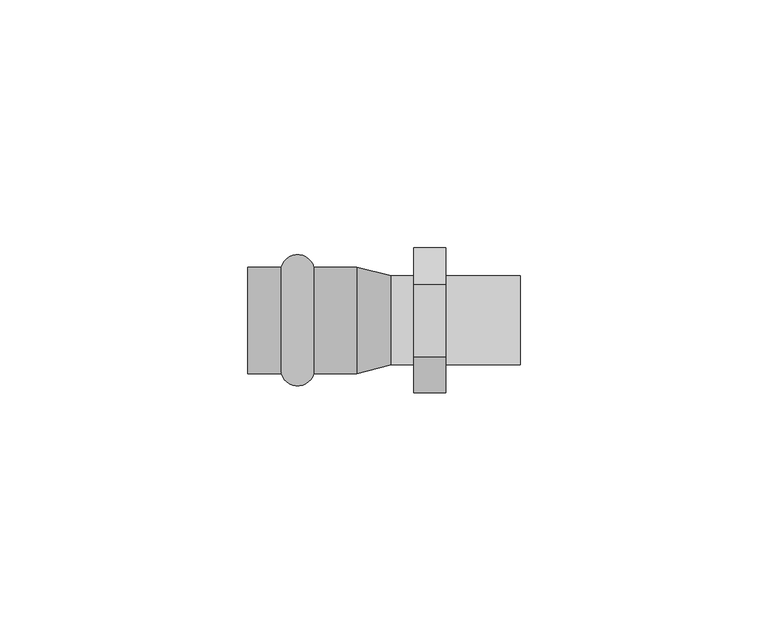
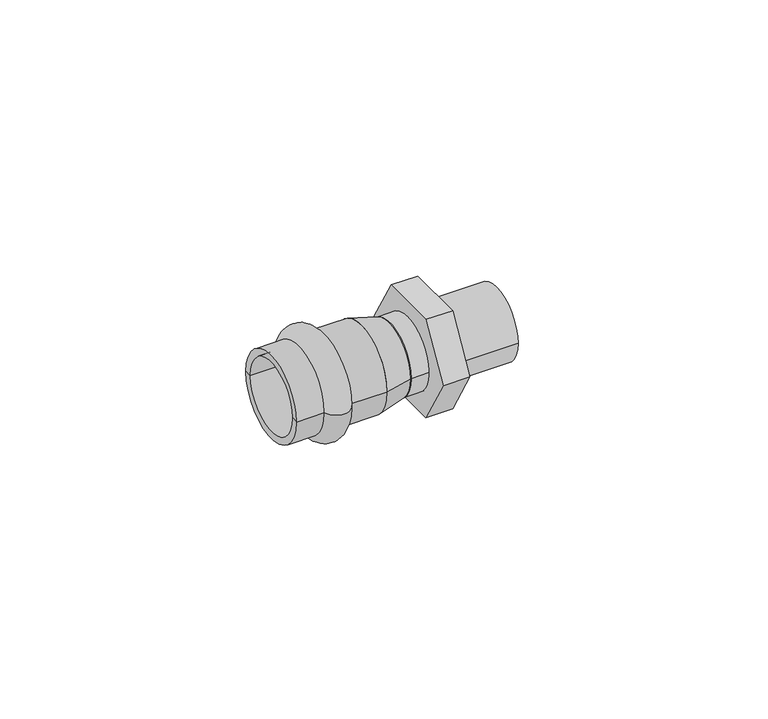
"""IFC4 building model written with IfcOpenShell, lengths in millimetres: pipe fitting geometry, VALTEC_VTi.901.I_Соединитель прямой с переходом на наружную резьбу_Нержавеющая сталь : VTi.901.I."""

from ifc_helpers import new_model, si_unit, point, frame, origin, origin_2d, place, context, project, spatial, polyline, circle_curve, ellipse_curve, trimmed, segment, composite_curve, outline, extrude, source, transform, mapped, element, save
from ifc_brep_helpers import plane_surface, cylinder_surface, revolved_surface, advanced_brep


def pipe_fitting_446bcd69(model_context):
    return source(origin(), model_context, "Body", "SolidModel", [
        advanced_brep(
        [(-29.9787193, -10.75, 0.0), (-29.9787193, 10.75, 0.0), (-23.4212807, 10.75, 0.0), (-23.4212807, -10.75, 0.0), (-36.75, -10.75, 0.0), (-36.75, 10.75, 0.0), (-36.75, -9.0, 0.0), (-36.75, 9.0, 0.0), (-14.75, -9.0, 0.0), (-14.75, 9.0, 0.0), (-14.75, -10.75, 0.0), (-14.75, 10.75, 0.0)],
        [
            (0, 1, circle_curve(frame((-29.9787193, 0.0, 0.0), z_axis=(1.0, 0.0, 0.0), x_axis=(0.0, 1.0, 0.0)), 10.75)),
            (1, 2, circle_curve(frame((-26.7, 9.85, 0.0), z_axis=(0.0, 0.0, -1.0), x_axis=(1.0, 0.0, 0.0)), 3.4)),
            (2, 3, circle_curve(frame((-23.4212807, 0.0, 0.0), z_axis=(-1.0, 0.0, 0.0), x_axis=(0.0, 1.0, 0.0)), 10.75)),
            (3, 0, circle_curve(frame((-26.7, -9.85, 0.0), z_axis=(0.0, 0.0, -1.0), x_axis=(1.0, 0.0, 0.0)), 3.4)),
            (1, 0, circle_curve(frame((-29.9787193, 0.0, 0.0), z_axis=(1.0, 0.0, 0.0), x_axis=(0.0, 1.0, 0.0)), 10.75)),
            (3, 2, circle_curve(frame((-23.4212807, 0.0, 0.0), z_axis=(-1.0, 0.0, 0.0), x_axis=(0.0, 1.0, 0.0)), 10.75)),
            (4, 5, circle_curve(frame((-36.75, 0.0, 0.0), z_axis=(1.0, 0.0, 0.0), x_axis=(0.0, 1.0, 0.0)), 10.75)),
            (5, 1),
            (0, 4),
            (5, 4, circle_curve(frame((-36.75, 0.0, 0.0), z_axis=(1.0, 0.0, 0.0), x_axis=(0.0, 1.0, 0.0)), 10.75)),
            (6, 7, circle_curve(frame((-36.75, 0.0, 0.0), z_axis=(1.0, 0.0, 0.0), x_axis=(0.0, 1.0, 0.0)), 9.0)),
            (7, 5),
            (4, 6),
            (7, 6, circle_curve(frame((-36.75, 0.0, 0.0), z_axis=(1.0, 0.0, 0.0), x_axis=(0.0, 1.0, 0.0)), 9.0)),
            (8, 9, circle_curve(frame((-14.75, 0.0, 0.0), z_axis=(1.0, 0.0, 0.0), x_axis=(0.0, 1.0, 0.0)), 9.0)),
            (9, 7),
            (6, 8),
            (9, 8, circle_curve(frame((-14.75, 0.0, 0.0), z_axis=(1.0, 0.0, 0.0), x_axis=(0.0, 1.0, 0.0)), 9.0)),
            (10, 11, circle_curve(frame((-14.75, 0.0, 0.0), z_axis=(1.0, 0.0, 0.0), x_axis=(0.0, 1.0, 0.0)), 10.75)),
            (11, 9),
            (8, 10),
            (11, 10, circle_curve(frame((-14.75, 0.0, 0.0), z_axis=(1.0, 0.0, 0.0), x_axis=(0.0, 1.0, 0.0)), 10.75)),
            (2, 11),
            (10, 3),
        ],
        [
            revolved_surface(trimmed(ellipse_curve(frame((-26.7, 9.85, 0.0), z_axis=(0.0, 0.0, 1.0), x_axis=(1.0, 0.0, 0.0)), 3.4, 3.4), [point((-23.4212807, 10.75, 0.0))], [point((-29.9787193, 10.75, 0.0))], True, "CARTESIAN"), (-40.2864426, 0.0, 0.0), (-1.0, 0.0, 0.0)),
            cylinder_surface(frame((-40.2864426, 0.0, 0.0), z_axis=(-1.0, 0.0, 0.0), x_axis=(0.0, 1.0, 0.0)), 10.75),
            plane_surface(frame((-36.75, 0.0, 0.0), z_axis=(-1.0, 0.0, 0.0), x_axis=(0.0, 1.0, 0.0))),
            revolved_surface(polyline([(-36.75, 9.0, 0.0), (-14.75, 9.0, 0.0)]), (-40.2864426, 0.0, 0.0), (-1.0, 0.0, 0.0)),
            plane_surface(frame((-14.75, 0.0, 0.0), z_axis=(1.0, 0.0, 0.0), x_axis=(0.0, 1.0, 0.0))),
        ],
        [
            (0, [[1, 2, 3, 4]]),
            (0, [[5, -4, 6, -2]]),
            (1, [[7, 8, -1, 9]]),
            (1, [[10, -9, -5, -8]]),
            (2, [[11, 12, -7, 13]]),
            (2, [[14, -13, -10, -12]]),
            (3, [[15, 16, -11, 17]]),
            (3, [[18, -17, -14, -16]]),
            (4, [[19, 20, -15, 21]]),
            (4, [[22, -21, -18, -20]]),
            (1, [[-3, 23, -19, 24]]),
            (1, [[-6, -24, -22, -23]]),
        ],
    ),
        extrude(outline(polyline([(-14.6358293, 0.0), (-7.3179147, 12.675), (7.3179147, 12.675), (14.6358293, 0.0), (7.3179147, -12.675), (-7.3179147, -12.675), (-14.6358293, 0.0)])), frame((-3.25, 0.0, 0.0), z_axis=(1.0, 0.0, 0.0), x_axis=(0.0, 1.0, 0.0)), (0.0, 0.0, 1.0), 6.5),
        extrude(outline(composite_curve([segment(trimmed(circle_curve(origin_2d(), 9.0), [point((-9.0, 0.0))], [point((9.0, 0.0))], False, "CARTESIAN"), True, "CONTINUOUS"), segment(trimmed(circle_curve(origin_2d(), 9.0), [point((9.0, 0.0))], [point((-9.0, 0.0))], False, "CARTESIAN"), True, "CONTINUOUS")], self_intersect=False)), frame((-7.8183127, 0.0, 0.0), z_axis=(1.0, 0.0, 0.0), x_axis=(0.0, 1.0, 0.0)), (0.0, 0.0, 1.0), 4.5683127),
        advanced_brep(
        [(-14.75, -10.75, 0.0), (-14.75, 10.75, 0.0), (-7.8183127, -9.0, 0.0), (-7.8183127, 9.0, 0.0)],
        [
            (0, 1, circle_curve(frame((-14.75, 0.0, 0.0), z_axis=(-1.0, 0.0, 0.0), x_axis=(0.0, -1.0, 0.0)), 10.75)),
            (1, 0, circle_curve(frame((-14.75, 0.0, 0.0), z_axis=(-1.0, 0.0, 0.0), x_axis=(0.0, 1.0, 0.0)), 10.75)),
            (2, 3, circle_curve(frame((-7.8183127, 0.0, 0.0), z_axis=(1.0, 0.0, 0.0), x_axis=(0.0, 1.0, 0.0)), 9.0)),
            (3, 2, circle_curve(frame((-7.8183127, 0.0, 0.0), z_axis=(1.0, 0.0, 0.0), x_axis=(0.0, -1.0, 0.0)), 9.0)),
            (2, 0),
            (1, 3),
        ],
        [
            plane_surface(frame((-14.75, 0.0, 0.0), z_axis=(-1.0, 0.0, 0.0), x_axis=(0.0, 0.0, -1.0))),
            plane_surface(frame((-7.8183127, 0.0, 0.0), z_axis=(1.0, 0.0, 0.0), x_axis=(0.0, 0.0, -1.0))),
            revolved_surface(polyline([(-7.8183127, -9.000000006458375, 0.0), (-14.75, -10.75, 0.0)]), (27.830365, 0.0, 0.0), (-1.0, 0.0, 0.0)),
            revolved_surface(polyline([(-7.8183127, 9.000000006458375, 0.0), (-14.75, 10.75, 0.0)]), (27.830365, 0.0, 0.0), (-1.0, 0.0, 0.0)),
        ],
        [
            (0, [[1, 2]]),
            (1, [[3, 4]]),
            (2, [[-3, 5, -2, 6]]),
            (3, [[-4, -6, -1, -5]]),
        ],
    ),
        extrude(outline(composite_curve([segment(trimmed(circle_curve(origin_2d(), 9.0), [point((-9.0, 0.0))], [point((9.0, 0.0))], False, "CARTESIAN"), True, "CONTINUOUS"), segment(trimmed(circle_curve(origin_2d(), 9.0), [point((9.0, 0.0))], [point((-9.0, 0.0))], False, "CARTESIAN"), True, "CONTINUOUS")], self_intersect=False), holes=[composite_curve([segment(trimmed(circle_curve(origin_2d(), 7.5), [point((-7.5, 0.0))], [point((7.5, 0.0))], True, "CARTESIAN"), True, "CONTINUOUS"), segment(trimmed(circle_curve(origin_2d(), 7.5), [point((7.5, 0.0))], [point((-7.5, 0.0))], True, "CARTESIAN"), True, "CONTINUOUS")], self_intersect=False)]), frame((3.25, 0.0, 0.0), z_axis=(1.0, 0.0, 0.0), x_axis=(0.0, 1.0, 0.0)), (0.0, 0.0, 1.0), 15.0),
    ])


if __name__ == "__main__":
    model = new_model("IFC4")
    model_context = context("Model", 3, world=origin())
    ifc_project = project(units=[si_unit("LENGTHUNIT", "METRE", prefix="MILLI")], contexts=[model_context])
    site = spatial("IfcSite", under=ifc_project)
    building = spatial("IfcBuilding", under=site)
    placement = place(None, origin())
    pipe_fitting_shape = pipe_fitting_446bcd69(model_context)
    element("IfcPipeFitting", 1, ObjectType="VALTEC_VTi.901.I_Соединитель прямой с переходом на наружную резьбу_Нержавеющая сталь : VTi.901.I", at=placement, inside=building, context=model_context, shape_type="MappedRepresentation", body=[
        mapped(pipe_fitting_shape, transform((0.0, 0.0, 0.0), x_axis=(1.0, 0.0, 0.0), y_axis=(0.0, 1.0, 0.0), z_axis=(0.0, 0.0, 1.0))),
    ])
    save(model, "model.ifc")
